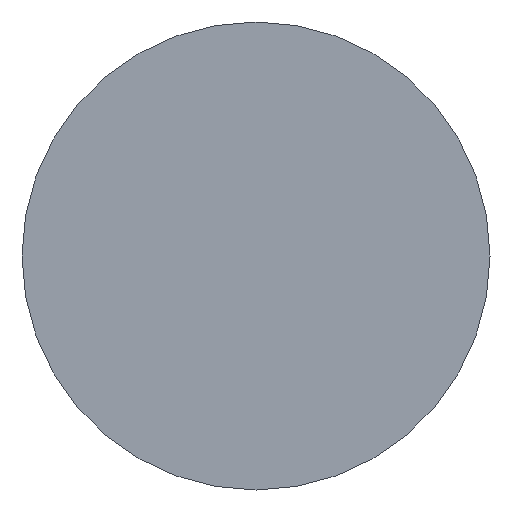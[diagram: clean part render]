
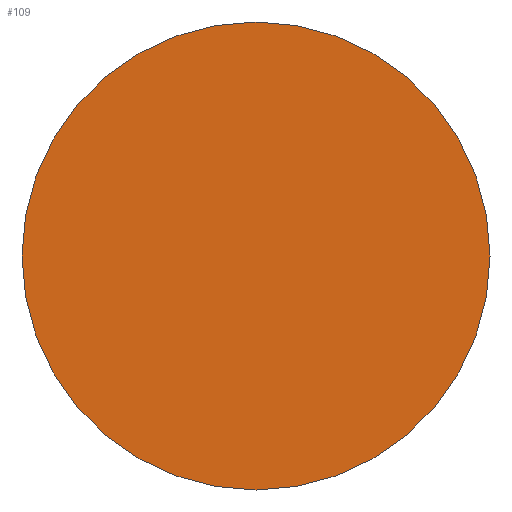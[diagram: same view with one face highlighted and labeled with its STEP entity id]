
A CAD part, front view. The second image highlights one B-rep face of the part: STEP entity #109.
In plain terms, the highlighted planar face has unit normal (0, -1, 0).
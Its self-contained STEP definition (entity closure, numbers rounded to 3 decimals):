
#31 = CYLINDRICAL_SURFACE('',#32,3.);
#32 = AXIS2_PLACEMENT_3D('',#33,#34,#35);
#33 = CARTESIAN_POINT('',(80.,31.,-95.263));
#34 = DIRECTION('',(0.,1.,0.));
#35 = DIRECTION('',(0.,-0.,1.));
#56 = VERTEX_POINT('',#57);
#57 = CARTESIAN_POINT('',(80.,31.,-92.263));
#78 = EDGE_CURVE('',#56,#56,#79,.T.);
#79 = SURFACE_CURVE('',#80,(#85,#92),.PCURVE_S1.);
#80 = CIRCLE('',#81,3.);
#81 = AXIS2_PLACEMENT_3D('',#82,#83,#84);
#82 = CARTESIAN_POINT('',(80.,31.,-95.263));
#83 = DIRECTION('',(0.,1.,0.));
#84 = DIRECTION('',(0.,-0.,1.));
#85 = PCURVE('',#31,#86);
#86 = DEFINITIONAL_REPRESENTATION('',(#87),#91);
#87 = LINE('',#88,#89);
#88 = CARTESIAN_POINT('',(0.,0.));
#89 = VECTOR('',#90,1.);
#90 = DIRECTION('',(1.,0.));
#91 = ( GEOMETRIC_REPRESENTATION_CONTEXT(2) 
PARAMETRIC_REPRESENTATION_CONTEXT() REPRESENTATION_CONTEXT('2D SPACE',''
  ) );
#92 = PCURVE('',#93,#98);
#93 = PLANE('',#94);
#94 = AXIS2_PLACEMENT_3D('',#95,#96,#97);
#95 = CARTESIAN_POINT('',(80.,31.,-95.263));
#96 = DIRECTION('',(0.,1.,0.));
#97 = DIRECTION('',(0.,-0.,1.));
#98 = DEFINITIONAL_REPRESENTATION('',(#99),#103);
#99 = CIRCLE('',#100,3.);
#100 = AXIS2_PLACEMENT_2D('',#101,#102);
#101 = CARTESIAN_POINT('',(0.,0.));
#102 = DIRECTION('',(1.,0.));
#103 = ( GEOMETRIC_REPRESENTATION_CONTEXT(2) 
PARAMETRIC_REPRESENTATION_CONTEXT() REPRESENTATION_CONTEXT('2D SPACE',''
  ) );
#109 = ADVANCED_FACE('',(#110),#93,.F.);
#110 = FACE_BOUND('',#111,.T.);
#111 = EDGE_LOOP('',(#112));
#112 = ORIENTED_EDGE('',*,*,#78,.F.);
